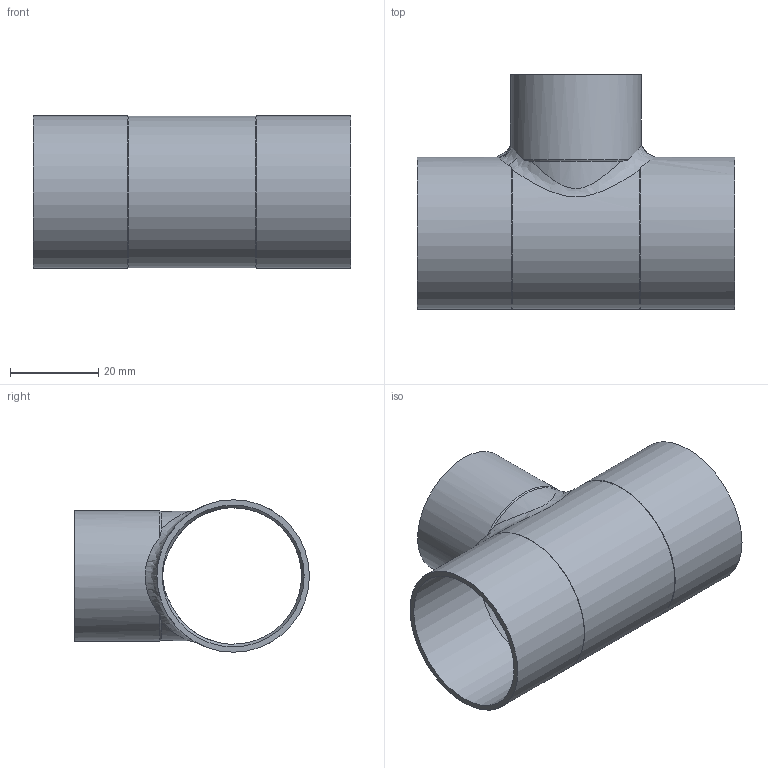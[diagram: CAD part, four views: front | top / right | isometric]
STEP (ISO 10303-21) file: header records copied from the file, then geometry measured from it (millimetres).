
FILE_DESCRIPTION((''),'2;1');
FILE_NAME('G:\SANHA-TERNAT\Technik\Management\Bouwmaten\z-maattekeningen 3D\5000\5130\15130322832.stp','2010-10-26T16:36:00',('vdvijverd'),(''),'Autodesk Inventor 2009','Autodesk Inventor 2009','');
FILE_SCHEMA(('AUTOMOTIVE_DESIGN { 1 0 10303 214 1 1 1 1 }'));
Length unit declared in the file: millimetre
Products named in the file (1): 15130322832
Bounding box: 72 x 53.3 x 34.6 mm (x, y, z)
Volume: 11241.9 mm3; surface area: 18049.7 mm2
Topology: 1 solids, 1 shells, 24 faces, 66 edges, 43 vertices
Faces by surface type: cylinder 10, bspline 6, cone 5, plane 3
Full cylindrical faces by diameter (mm): 28.2 x1, 29.75 x1, 32.2 x1, 34.6 x1
Entity records: 2485 total; most frequent: CARTESIAN_POINT 1972, ORIENTED_EDGE 102, DIRECTION 84, EDGE_CURVE 51, AXIS2_PLACEMENT_3D 42, VERTEX_POINT 37, EDGE_LOOP 36, B_SPLINE_CURVE_WITH_KNOTS 28
